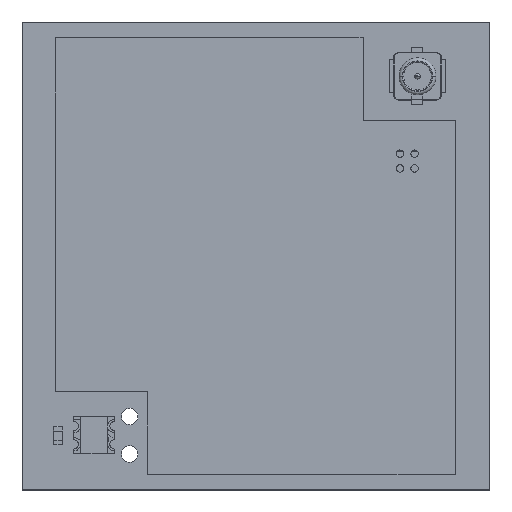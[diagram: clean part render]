
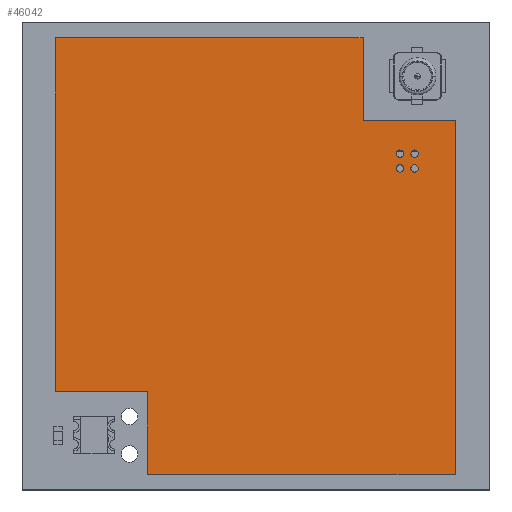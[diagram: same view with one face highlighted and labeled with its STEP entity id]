
A CAD part, top view. The second image highlights one B-rep face of the part: STEP entity #46042.
In plain terms, the highlighted planar face has unit normal (0, 0, 1).
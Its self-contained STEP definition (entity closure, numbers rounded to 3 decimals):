
#45755 = VERTEX_POINT('',#45756);
#45756 = CARTESIAN_POINT('',(-5.7,37.485,2.2));
#45764 = VERTEX_POINT('',#45765);
#45765 = CARTESIAN_POINT('',(-5.7,32.985,2.2));
#45771 = EDGE_CURVE('',#45764,#45755,#45772,.T.);
#45772 = LINE('',#45773,#45774);
#45773 = CARTESIAN_POINT('',(-5.7,29.21,2.2));
#45774 = VECTOR('',#45775,1.);
#45775 = DIRECTION('',(0.,1.,0.));
#45785 = EDGE_CURVE('',#45755,#45786,#45788,.T.);
#45786 = VERTEX_POINT('',#45787);
#45787 = CARTESIAN_POINT('',(-22.4,37.485,2.2));
#45788 = LINE('',#45789,#45790);
#45789 = CARTESIAN_POINT('',(-8.725,37.485,2.2));
#45790 = VECTOR('',#45791,1.);
#45791 = DIRECTION('',(-1.,0.,0.));
#45810 = EDGE_CURVE('',#45786,#45811,#45813,.T.);
#45811 = VERTEX_POINT('',#45812);
#45812 = CARTESIAN_POINT('',(-22.4,18.285,2.2));
#45813 = LINE('',#45814,#45815);
#45814 = CARTESIAN_POINT('',(-22.4,31.46,2.2));
#45815 = VECTOR('',#45816,1.);
#45816 = DIRECTION('',(0.,-1.,0.));
#45834 = VERTEX_POINT('',#45835);
#45835 = CARTESIAN_POINT('',(-17.4,18.285,2.2));
#45843 = EDGE_CURVE('',#45811,#45834,#45844,.T.);
#45844 = LINE('',#45845,#45846);
#45845 = CARTESIAN_POINT('',(-16.875,18.285,2.2));
#45846 = VECTOR('',#45847,1.);
#45847 = DIRECTION('',(1.,0.,0.));
#45858 = VERTEX_POINT('',#45859);
#45859 = CARTESIAN_POINT('',(-17.4,13.785,2.2));
#45867 = EDGE_CURVE('',#45834,#45858,#45868,.T.);
#45868 = LINE('',#45869,#45870);
#45869 = CARTESIAN_POINT('',(-17.4,22.06,2.2));
#45870 = VECTOR('',#45871,1.);
#45871 = DIRECTION('',(0.,-1.,0.));
#45882 = VERTEX_POINT('',#45883);
#45883 = CARTESIAN_POINT('',(-0.7,13.785,2.2));
#45891 = EDGE_CURVE('',#45858,#45882,#45892,.T.);
#45892 = LINE('',#45893,#45894);
#45893 = CARTESIAN_POINT('',(-14.375,13.785,2.2));
#45894 = VECTOR('',#45895,1.);
#45895 = DIRECTION('',(1.,0.,0.));
#45906 = VERTEX_POINT('',#45907);
#45907 = CARTESIAN_POINT('',(-0.7,32.985,2.2));
#45915 = EDGE_CURVE('',#45882,#45906,#45916,.T.);
#45916 = LINE('',#45917,#45918);
#45917 = CARTESIAN_POINT('',(-0.7,19.81,2.2));
#45918 = VECTOR('',#45919,1.);
#45919 = DIRECTION('',(0.,1.,0.));
#45932 = EDGE_CURVE('',#45906,#45764,#45933,.T.);
#45933 = LINE('',#45934,#45935);
#45934 = CARTESIAN_POINT('',(-6.225,32.985,2.2));
#45935 = VECTOR('',#45936,1.);
#45936 = DIRECTION('',(-1.,0.,0.));
#45947 = VERTEX_POINT('',#45948);
#45948 = CARTESIAN_POINT('',(-3.5,30.4,2.2));
#45954 = EDGE_CURVE('',#45947,#45947,#45955,.T.);
#45955 = CIRCLE('',#45956,0.2);
#45956 = AXIS2_PLACEMENT_3D('',#45957,#45958,#45959);
#45957 = CARTESIAN_POINT('',(-3.7,30.4,2.2));
#45958 = DIRECTION('',(0.,0.,-1.));
#45959 = DIRECTION('',(1.,0.,0.));
#45972 = VERTEX_POINT('',#45973);
#45973 = CARTESIAN_POINT('',(-2.7,30.4,2.2));
#45979 = EDGE_CURVE('',#45972,#45972,#45980,.T.);
#45980 = CIRCLE('',#45981,0.2);
#45981 = AXIS2_PLACEMENT_3D('',#45982,#45983,#45984);
#45982 = CARTESIAN_POINT('',(-2.9,30.4,2.2));
#45983 = DIRECTION('',(0.,0.,-1.));
#45984 = DIRECTION('',(1.,0.,0.));
#45997 = VERTEX_POINT('',#45998);
#45998 = CARTESIAN_POINT('',(-3.5,31.2,2.2));
#46004 = EDGE_CURVE('',#45997,#45997,#46005,.T.);
#46005 = CIRCLE('',#46006,0.2);
#46006 = AXIS2_PLACEMENT_3D('',#46007,#46008,#46009);
#46007 = CARTESIAN_POINT('',(-3.7,31.2,2.2));
#46008 = DIRECTION('',(0.,0.,-1.));
#46009 = DIRECTION('',(1.,0.,0.));
#46022 = VERTEX_POINT('',#46023);
#46023 = CARTESIAN_POINT('',(-2.7,31.2,2.2));
#46029 = EDGE_CURVE('',#46022,#46022,#46030,.T.);
#46030 = CIRCLE('',#46031,0.2);
#46031 = AXIS2_PLACEMENT_3D('',#46032,#46033,#46034);
#46032 = CARTESIAN_POINT('',(-2.9,31.2,2.2));
#46033 = DIRECTION('',(0.,0.,-1.));
#46034 = DIRECTION('',(1.,0.,0.));
#46042 = ADVANCED_FACE('',(#46043,#46053,#46056,#46059,#46062),#46065,
  .T.);
#46043 = FACE_BOUND('',#46044,.T.);
#46044 = EDGE_LOOP('',(#46045,#46046,#46047,#46048,#46049,#46050,#46051,
    #46052));
#46045 = ORIENTED_EDGE('',*,*,#45810,.T.);
#46046 = ORIENTED_EDGE('',*,*,#45843,.T.);
#46047 = ORIENTED_EDGE('',*,*,#45867,.T.);
#46048 = ORIENTED_EDGE('',*,*,#45891,.T.);
#46049 = ORIENTED_EDGE('',*,*,#45915,.T.);
#46050 = ORIENTED_EDGE('',*,*,#45932,.T.);
#46051 = ORIENTED_EDGE('',*,*,#45771,.T.);
#46052 = ORIENTED_EDGE('',*,*,#45785,.T.);
#46053 = FACE_BOUND('',#46054,.T.);
#46054 = EDGE_LOOP('',(#46055));
#46055 = ORIENTED_EDGE('',*,*,#45954,.T.);
#46056 = FACE_BOUND('',#46057,.T.);
#46057 = EDGE_LOOP('',(#46058));
#46058 = ORIENTED_EDGE('',*,*,#45979,.T.);
#46059 = FACE_BOUND('',#46060,.T.);
#46060 = EDGE_LOOP('',(#46061));
#46061 = ORIENTED_EDGE('',*,*,#46004,.T.);
#46062 = FACE_BOUND('',#46063,.T.);
#46063 = EDGE_LOOP('',(#46064));
#46064 = ORIENTED_EDGE('',*,*,#46029,.T.);
#46065 = PLANE('',#46066);
#46066 = AXIS2_PLACEMENT_3D('',#46067,#46068,#46069);
#46067 = CARTESIAN_POINT('',(-11.55,25.635,2.2));
#46068 = DIRECTION('',(0.,0.,1.));
#46069 = DIRECTION('',(1.,0.,0.));
